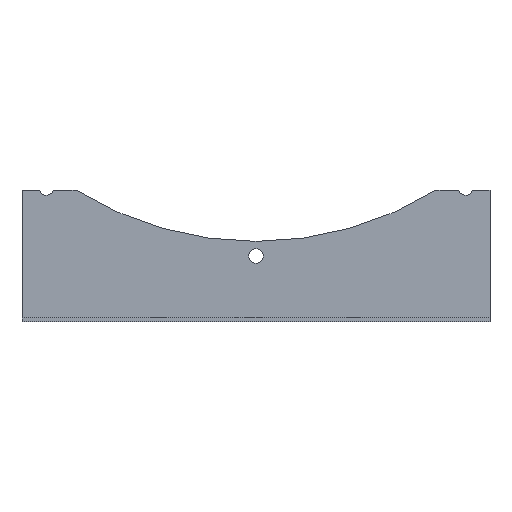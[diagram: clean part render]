
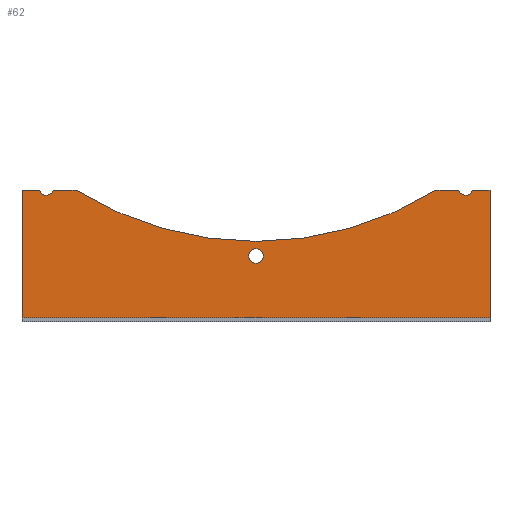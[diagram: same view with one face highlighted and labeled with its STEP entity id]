
A CAD part, top view. The second image highlights one B-rep face of the part: STEP entity #62.
In plain terms, the highlighted planar face has unit normal (0, 0, 1).
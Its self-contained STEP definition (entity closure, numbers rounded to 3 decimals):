
#62=ADVANCED_FACE('',(#134,#135),#136,.T.);
#134=FACE_BOUND('',#221,.T.);
#135=FACE_OUTER_BOUND('',#222,.T.);
#136=PLANE('',#223);
#221=EDGE_LOOP('',(#337,#338));
#222=EDGE_LOOP('',(#339,#340,#341,#342,#343,#344,#345,#346,#347,#348,#349,#350));
#223=AXIS2_PLACEMENT_3D('',#351,#352,#353);
#337=ORIENTED_EDGE('',*,*,#525,.T.);
#338=ORIENTED_EDGE('',*,*,#543,.T.);
#339=ORIENTED_EDGE('',*,*,#535,.T.);
#340=ORIENTED_EDGE('',*,*,#541,.T.);
#341=ORIENTED_EDGE('',*,*,#544,.F.);
#342=ORIENTED_EDGE('',*,*,#545,.F.);
#343=ORIENTED_EDGE('',*,*,#546,.F.);
#344=ORIENTED_EDGE('',*,*,#547,.F.);
#345=ORIENTED_EDGE('',*,*,#548,.F.);
#346=ORIENTED_EDGE('',*,*,#549,.T.);
#347=ORIENTED_EDGE('',*,*,#532,.T.);
#348=ORIENTED_EDGE('',*,*,#550,.F.);
#349=ORIENTED_EDGE('',*,*,#551,.T.);
#350=ORIENTED_EDGE('',*,*,#552,.F.);
#351=CARTESIAN_POINT('',(0.0,4.0,-18.5));
#352=DIRECTION('',(0.0,0.0,1.0));
#353=DIRECTION('',(1.0,0.0,0.0));
#525=EDGE_CURVE('',#629,#626,#630,.T.);
#532=EDGE_CURVE('',#636,#640,#642,.T.);
#535=EDGE_CURVE('',#647,#644,#648,.T.);
#541=EDGE_CURVE('',#644,#655,#657,.T.);
#543=EDGE_CURVE('',#626,#629,#659,.T.);
#544=EDGE_CURVE('',#660,#655,#661,.T.);
#545=EDGE_CURVE('',#662,#660,#663,.T.);
#546=EDGE_CURVE('',#664,#662,#665,.T.);
#547=EDGE_CURVE('',#666,#664,#667,.T.);
#548=EDGE_CURVE('',#668,#666,#669,.T.);
#549=EDGE_CURVE('',#668,#636,#670,.T.);
#550=EDGE_CURVE('',#671,#640,#672,.T.);
#551=EDGE_CURVE('',#671,#673,#674,.T.);
#552=EDGE_CURVE('',#647,#673,#675,.T.);
#626=VERTEX_POINT('',#766);
#629=VERTEX_POINT('',#770);
#630=CIRCLE('',#771,7.5);
#636=VERTEX_POINT('',#778);
#640=VERTEX_POINT('',#783);
#642=CIRCLE('',#786,7.5);
#644=VERTEX_POINT('',#788);
#647=VERTEX_POINT('',#792);
#648=CIRCLE('',#793,7.5);
#655=VERTEX_POINT('',#801);
#657=CIRCLE('',#804,7.5);
#659=CIRCLE('',#806,7.5);
#660=VERTEX_POINT('',#807);
#661=LINE('',#808,#809);
#662=VERTEX_POINT('',#810);
#663=LINE('',#811,#812);
#664=VERTEX_POINT('',#813);
#665=LINE('',#814,#815);
#666=VERTEX_POINT('',#816);
#667=LINE('',#817,#818);
#668=VERTEX_POINT('',#819);
#669=LINE('',#820,#821);
#670=CIRCLE('',#822,7.5);
#671=VERTEX_POINT('',#823);
#672=LINE('',#824,#825);
#673=VERTEX_POINT('',#826);
#674=CIRCLE('',#827,350.5);
#675=LINE('',#828,#829);
#766=CARTESIAN_POINT('',(7.5,0.,-18.5));
#770=CARTESIAN_POINT('',(-7.5,0.,-18.5));
#771=AXIS2_PLACEMENT_3D('',#931,#932,#933);
#778=CARTESIAN_POINT('',(208.768,65.396,-18.5));
#783=CARTESIAN_POINT('',(207.698,67.5,-18.5));
#786=AXIS2_PLACEMENT_3D('',#943,#944,#945);
#788=CARTESIAN_POINT('',(-208.768,65.396,-18.5));
#792=CARTESIAN_POINT('',(-207.698,67.5,-18.5));
#793=AXIS2_PLACEMENT_3D('',#947,#948,#949);
#801=CARTESIAN_POINT('',(-221.973,67.5,-18.5));
#804=AXIS2_PLACEMENT_3D('',#958,#959,#960);
#806=AXIS2_PLACEMENT_3D('',#961,#962,#963);
#807=CARTESIAN_POINT('',(-240.0,67.5,-18.5));
#808=CARTESIAN_POINT('',(0.0,67.5,-18.5));
#809=VECTOR('',#964,1.0);
#810=CARTESIAN_POINT('',(-240.0,-63.5,-18.5));
#811=CARTESIAN_POINT('',(-240.0,2.0,-18.5));
#812=VECTOR('',#965,1.0);
#813=CARTESIAN_POINT('',(240.0,-63.5,-18.5));
#814=CARTESIAN_POINT('',(0.0,-63.5,-18.5));
#815=VECTOR('',#966,1.0);
#816=CARTESIAN_POINT('',(240.0,67.5,-18.5));
#817=CARTESIAN_POINT('',(240.0,2.0,-18.5));
#818=VECTOR('',#967,1.0);
#819=CARTESIAN_POINT('',(221.973,67.5,-18.5));
#820=CARTESIAN_POINT('',(0.0,67.5,-18.5));
#821=VECTOR('',#968,1.0);
#822=AXIS2_PLACEMENT_3D('',#969,#970,#971);
#823=CARTESIAN_POINT('',(184.516,67.5,-18.5));
#824=CARTESIAN_POINT('',(0.0,67.5,-18.5));
#825=VECTOR('',#972,1.0);
#826=CARTESIAN_POINT('',(-184.516,67.5,-18.5));
#827=AXIS2_PLACEMENT_3D('',#973,#974,#975);
#828=CARTESIAN_POINT('',(0.0,67.5,-18.5));
#829=VECTOR('',#976,1.0);
#931=CARTESIAN_POINT('',(0.0,0.0,-18.5));
#932=DIRECTION('',(0.0,0.0,-1.0));
#933=DIRECTION('',(1.0,0.0,0.0));
#943=CARTESIAN_POINT('',(214.836,69.804,-18.5));
#944=DIRECTION('',(0.0,0.0,-1.0));
#945=DIRECTION('',(0.809,0.588,0.0));
#947=CARTESIAN_POINT('',(-214.836,69.804,-18.5));
#948=DIRECTION('',(0.0,-0.0,-1.0));
#949=DIRECTION('',(0.809,-0.588,0.0));
#958=CARTESIAN_POINT('',(-214.836,69.804,-18.5));
#959=DIRECTION('',(0.0,-0.0,-1.0));
#960=DIRECTION('',(0.809,-0.588,0.0));
#961=CARTESIAN_POINT('',(0.0,0.0,-18.5));
#962=DIRECTION('',(0.0,0.0,-1.0));
#963=DIRECTION('',(1.0,0.0,0.0));
#964=DIRECTION('',(1.0,0.0,-0.0));
#965=DIRECTION('',(0.0,1.0,0.0));
#966=DIRECTION('',(-1.0,0.0,0.0));
#967=DIRECTION('',(0.0,-1.0,0.0));
#968=DIRECTION('',(1.0,0.0,-0.0));
#969=CARTESIAN_POINT('',(214.836,69.804,-18.5));
#970=DIRECTION('',(0.0,0.0,-1.0));
#971=DIRECTION('',(0.809,0.588,0.0));
#972=DIRECTION('',(1.0,0.0,-0.0));
#973=CARTESIAN_POINT('',(0.0,365.5,-18.5));
#974=DIRECTION('',(0.0,0.0,-1.0));
#975=DIRECTION('',(1.0,0.0,0.0));
#976=DIRECTION('',(1.0,0.0,-0.0));
